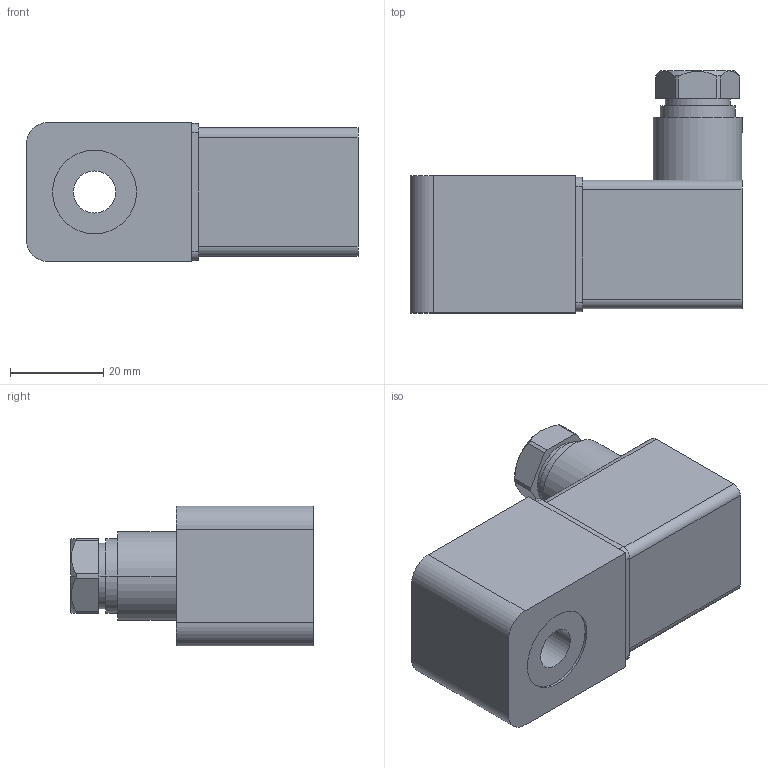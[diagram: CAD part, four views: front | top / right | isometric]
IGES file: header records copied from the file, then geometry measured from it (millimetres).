
Start section:  PTC IGES file: R412000147\r412000147.iges
Global section: file name: R412000147\r412000147.iges; native system: Creo Parametric by PTC Inc.; preprocessor: 2023092; author: GND7HC; organization: Unknown; date: 20240515.180217; units: millimetre
Bounding box: 71.2 x 51.95 x 30 mm (x, y, z)
Surface area: 11986.9 mm2 (no closed solid volume)
Topology: 0 solids, 0 shells, 64 faces, 314 edges, 313 vertices
Faces by surface type: revolution 34, bspline 30
